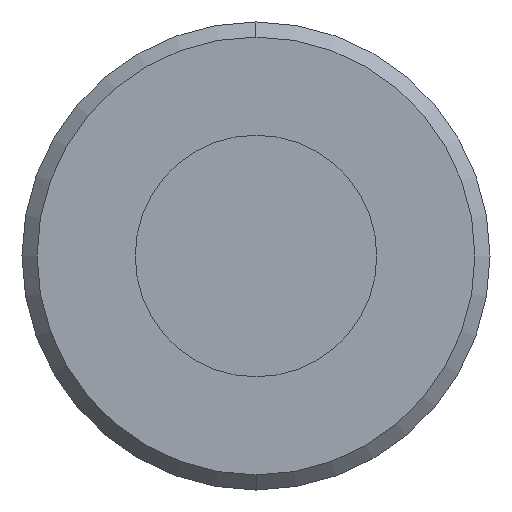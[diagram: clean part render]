
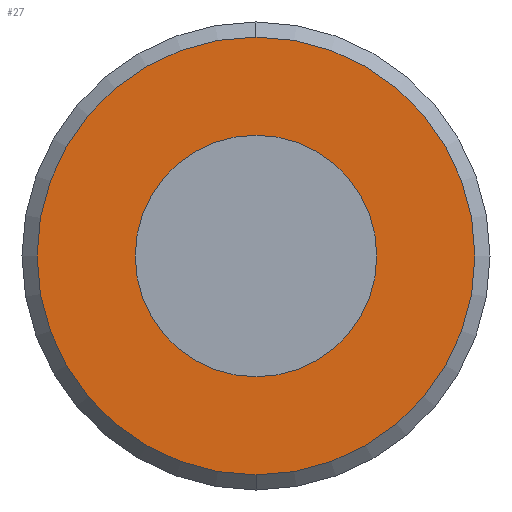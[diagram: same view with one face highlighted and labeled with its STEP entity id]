
A CAD part, left-side view. The second image highlights one B-rep face of the part: STEP entity #27.
In plain terms, the highlighted planar face has unit normal (-1, 0, 0).
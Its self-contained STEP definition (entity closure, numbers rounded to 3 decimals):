
#27 = ADVANCED_FACE ( 'NONE', ( #759, #771 ), #324, .F. ) ;
#31 = DIRECTION ( 'NONE',  ( 0., 0., 1. ) ) ;
#32 = CIRCLE ( 'NONE', #90, 8. ) ;
#40 = CARTESIAN_POINT ( 'NONE',  ( 73.9, 0., -8. ) ) ;
#44 = CIRCLE ( 'NONE', #754, 8. ) ;
#79 = DIRECTION ( 'NONE',  ( -1., 0., 0. ) ) ;
#90 = AXIS2_PLACEMENT_3D ( 'NONE', #210, #79, #561 ) ;
#99 = DIRECTION ( 'NONE',  ( -1., 0., 0. ) ) ;
#101 = ORIENTED_EDGE ( 'NONE', *, *, #594, .F. ) ;
#142 = AXIS2_PLACEMENT_3D ( 'NONE', #414, #838, #229 ) ;
#210 = CARTESIAN_POINT ( 'NONE',  ( 73.9, 0., 0. ) ) ;
#215 = CARTESIAN_POINT ( 'NONE',  ( 73.9, 0., 0. ) ) ;
#220 = CARTESIAN_POINT ( 'NONE',  ( 73.9, 0., 14.5 ) ) ;
#224 = CARTESIAN_POINT ( 'NONE',  ( 73.9, 0., 8. ) ) ;
#229 = DIRECTION ( 'NONE',  ( 0., 0., 1. ) ) ;
#250 = EDGE_LOOP ( 'NONE', ( #101, #797 ) ) ;
#324 = PLANE ( 'NONE',  #488 ) ;
#335 = AXIS2_PLACEMENT_3D ( 'NONE', #585, #837, #31 ) ;
#360 = EDGE_CURVE ( 'NONE', #531, #752, #32, .T. ) ;
#390 = DIRECTION ( 'NONE',  ( 0., 0., -1. ) ) ;
#391 = EDGE_CURVE ( 'NONE', #666, #726, #806, .T. ) ;
#414 = CARTESIAN_POINT ( 'NONE',  ( 73.9, 0., 0. ) ) ;
#430 = DIRECTION ( 'NONE',  ( 0., 0., 1. ) ) ;
#488 = AXIS2_PLACEMENT_3D ( 'NONE', #619, #611, #390 ) ;
#531 = VERTEX_POINT ( 'NONE', #40 ) ;
#561 = DIRECTION ( 'NONE',  ( 0., 0., 1. ) ) ;
#585 = CARTESIAN_POINT ( 'NONE',  ( 73.9, 0., 0. ) ) ;
#594 = EDGE_CURVE ( 'NONE', #752, #531, #44, .T. ) ;
#611 = DIRECTION ( 'NONE',  ( 1., 0., 0. ) ) ;
#619 = CARTESIAN_POINT ( 'NONE',  ( 73.9, 14.5, 0. ) ) ;
#632 = ORIENTED_EDGE ( 'NONE', *, *, #391, .T. ) ;
#646 = CARTESIAN_POINT ( 'NONE',  ( 73.9, 0., -14.5 ) ) ;
#651 = EDGE_CURVE ( 'NONE', #726, #666, #865, .T. ) ;
#666 = VERTEX_POINT ( 'NONE', #220 ) ;
#726 = VERTEX_POINT ( 'NONE', #646 ) ;
#752 = VERTEX_POINT ( 'NONE', #224 ) ;
#754 = AXIS2_PLACEMENT_3D ( 'NONE', #215, #99, #430 ) ;
#759 = FACE_BOUND ( 'NONE', #250, .T. ) ;
#762 = ORIENTED_EDGE ( 'NONE', *, *, #651, .T. ) ;
#771 = FACE_OUTER_BOUND ( 'NONE', #884, .T. ) ;
#797 = ORIENTED_EDGE ( 'NONE', *, *, #360, .F. ) ;
#806 = CIRCLE ( 'NONE', #142, 14.5 ) ;
#837 = DIRECTION ( 'NONE',  ( -1., 0., 0. ) ) ;
#838 = DIRECTION ( 'NONE',  ( -1., 0., 0. ) ) ;
#865 = CIRCLE ( 'NONE', #335, 14.5 ) ;
#884 = EDGE_LOOP ( 'NONE', ( #762, #632 ) ) ;
